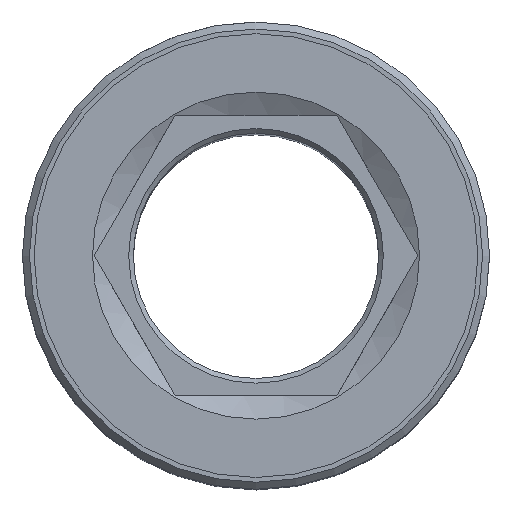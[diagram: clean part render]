
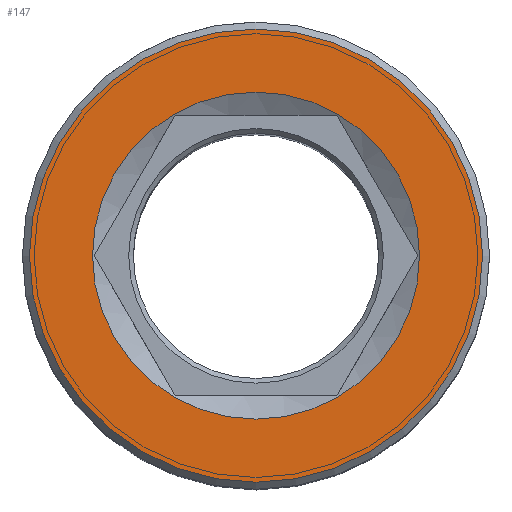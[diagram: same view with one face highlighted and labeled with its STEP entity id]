
A CAD part, top view. The second image highlights one B-rep face of the part: STEP entity #147.
In plain terms, the highlighted planar face has unit normal (0, 0, 1).
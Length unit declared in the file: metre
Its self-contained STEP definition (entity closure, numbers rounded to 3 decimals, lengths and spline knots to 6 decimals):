
#147=ADVANCED_FACE('',(#329,#330),#331,.F.);
#185=EDGE_CURVE('',#398,#398,#399,.T.);
#221=EDGE_CURVE('',#446,#446,#447,.T.);
#329=FACE_BOUND('',#554,.T.);
#330=FACE_OUTER_BOUND('',#555,.T.);
#331=PLANE('',#556);
#398=VERTEX_POINT('',#708);
#399=CIRCLE('',#709,0.007);
#446=VERTEX_POINT('',#786);
#447=CIRCLE('',#787,0.0097);
#554=EDGE_LOOP('',(#947));
#555=EDGE_LOOP('',(#948));
#556=AXIS2_PLACEMENT_3D('',#949,#950,#951);
#708=CARTESIAN_POINT('',(0.007,0.,-0.001));
#709=AXIS2_PLACEMENT_3D('',#1026,#1027,#1028);
#786=CARTESIAN_POINT('',(0.0,0.0097,-0.001));
#787=AXIS2_PLACEMENT_3D('',#1056,#1057,#1058);
#947=ORIENTED_EDGE('',*,*,#185,.F.);
#948=ORIENTED_EDGE('',*,*,#221,.T.);
#949=CARTESIAN_POINT('',(-0.00255,0.,-0.001));
#950=DIRECTION('',(0.0,0.,-1.0));
#951=DIRECTION('',(0.0,-1.0,0.));
#1026=CARTESIAN_POINT('',(0.0,0.,-0.001));
#1027=DIRECTION('',(0.0,0.0,1.0));
#1028=DIRECTION('',(1.0,0.0,0.0));
#1056=CARTESIAN_POINT('',(0.0,0.,-0.001));
#1057=DIRECTION('',(0.0,0.,1.0));
#1058=DIRECTION('',(0.0,1.0,0.));
